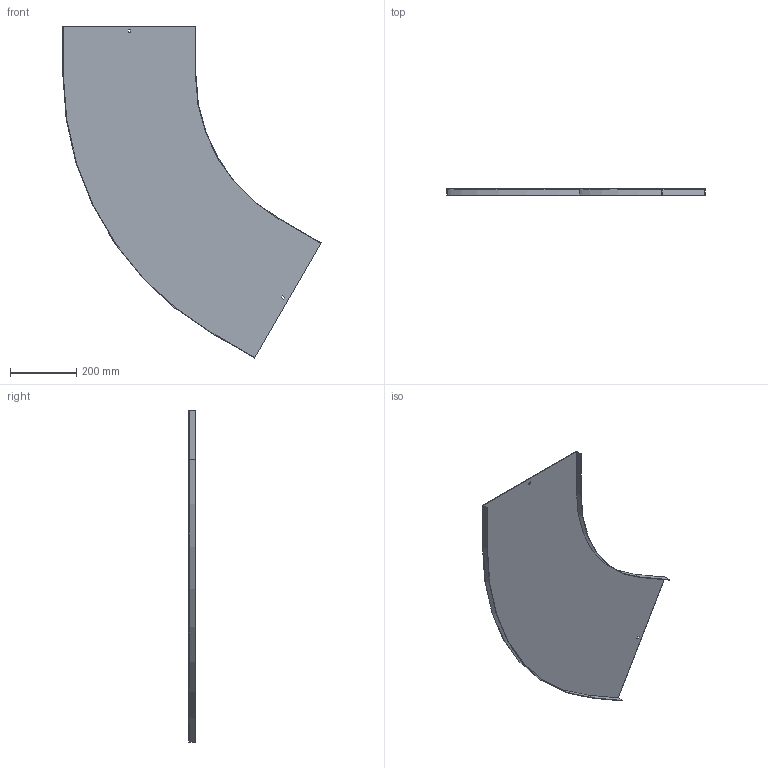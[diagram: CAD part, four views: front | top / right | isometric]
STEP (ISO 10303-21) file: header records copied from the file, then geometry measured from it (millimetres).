
FILE_DESCRIPTION (( 'STEP AP214' ), '1' );
FILE_NAME ('13N5R400.step', '2025-02-21T10:51:40', ( '' ), ( '' ), 'SwSTEP 2.0', 'SolidWorks 2023', '' );
FILE_SCHEMA (( 'AUTOMOTIVE_DESIGN' ));
Length unit declared in the file: millimetre
Products named in the file (1): 13N5R400
Bounding box: 782.15 x 20 x 1005.72 mm (x, y, z)
Volume: 681629.8 mm3; surface area: 913351.8 mm2
Topology: 1 solids, 1 shells, 26 faces, 72 edges, 48 vertices
Faces by surface type: plane 22, cylinder 4
Entity records: 855 total; most frequent: CARTESIAN_POINT 147, ORIENTED_EDGE 144, DIRECTION 134, EDGE_CURVE 72, VECTOR 64, LINE 64, VERTEX_POINT 48, AXIS2_PLACEMENT_3D 35
